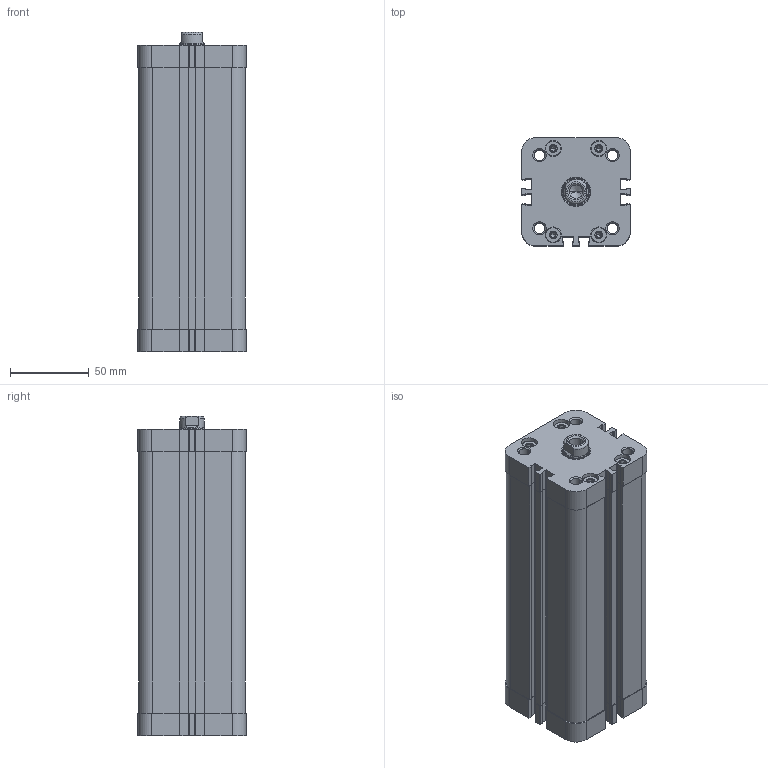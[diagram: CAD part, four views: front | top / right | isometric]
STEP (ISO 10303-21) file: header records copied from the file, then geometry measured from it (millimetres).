
FILE_DESCRIPTION (( 'STEP AP214' ), '1' );
FILE_NAME ('Q11M20500150.STEP', '2021-09-20T15:56:24', ( '' ), ( '' ), 'SwSTEP 2.0', 'SolidWorks 2016', '' );
FILE_SCHEMA (( 'AUTOMOTIVE_DESIGN' ));
Length unit declared in the file: millimetre
Products named in the file (6): Q11M20500150; Pistone Ø50 ISO 21287 WEB; TA Ø50 ISO 21287 WEB; 39.F01.000_39.F01.150; TP Ø50 ISO 21287 WEB; 000.555.7_000.555.0150
Assembly tree (5 placements, depth 2):
  Q11M20500150
    TP Ø50 ISO 21287 WEB
    000.555.7_000.555.0150
    39.F01.000_39.F01.150
    Pistone Ø50 ISO 21287 WEB
    TA Ø50 ISO 21287 WEB
Bounding box: 69 x 69 x 203 mm (x, y, z)
Volume: 378798.1 mm3; surface area: 204032.6 mm2
Topology: 14 solids, 14 shells, 912 faces, 2245 edges, 1389 vertices
Faces by surface type: cylinder 375, plane 353, cone 108, torus 60, bspline 16
Entity records: 35061 total; most frequent: CARTESIAN_POINT 5418, DIRECTION 4938, ORIENTED_EDGE 4454, EDGE_CURVE 2227, AXIS2_PLACEMENT_3D 1937, VERTEX_POINT 1389, VECTOR 1064, LINE 1064
